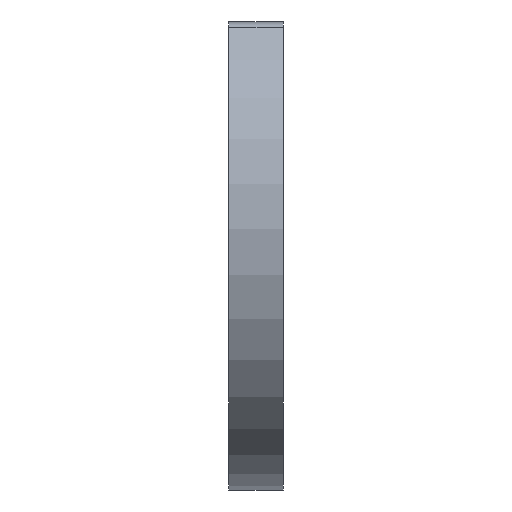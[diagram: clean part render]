
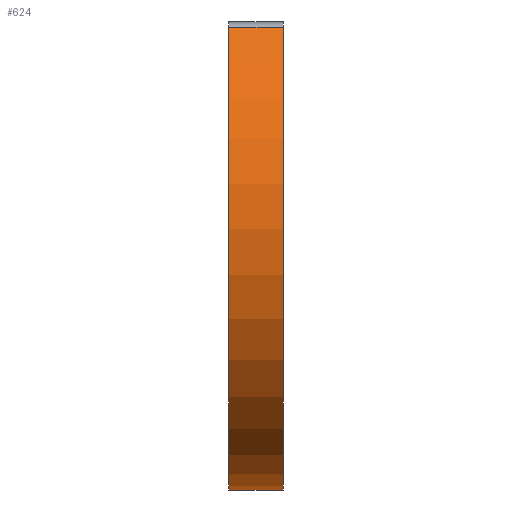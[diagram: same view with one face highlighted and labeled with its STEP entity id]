
A CAD part, left-side view. The second image highlights one B-rep face of the part: STEP entity #624.
In plain terms, the highlighted cylindrical face has radius 2.4 mm (diameter 4.8 mm), a partial arc.
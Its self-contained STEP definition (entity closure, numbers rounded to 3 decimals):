
#11 = VERTEX_POINT ( 'NONE', #43 ) ;
#12 = EDGE_CURVE ( 'NONE', #175, #704, #164, .T. ) ;
#43 = CARTESIAN_POINT ( 'NONE',  ( -1.571, -0.25, 1.815 ) ) ;
#46 = EDGE_CURVE ( 'NONE', #11, #491, #245, .T. ) ;
#88 = DIRECTION ( 'NONE',  ( 0., 0., 1. ) ) ;
#100 = CIRCLE ( 'NONE', #404, 2.4 ) ;
#117 = ORIENTED_EDGE ( 'NONE', *, *, #788, .F. ) ;
#164 = LINE ( 'NONE', #837, #906 ) ;
#175 = VERTEX_POINT ( 'NONE', #577 ) ;
#180 = CARTESIAN_POINT ( 'NONE',  ( -1.571, 0.25, 1.815 ) ) ;
#198 = EDGE_CURVE ( 'NONE', #704, #11, #351, .T. ) ;
#245 = LINE ( 'NONE', #328, #523 ) ;
#276 = CARTESIAN_POINT ( 'NONE',  ( 0., 0.25, 0. ) ) ;
#293 = CARTESIAN_POINT ( 'NONE',  ( 0., -0.25, 0. ) ) ;
#319 = ORIENTED_EDGE ( 'NONE', *, *, #46, .T. ) ;
#328 = CARTESIAN_POINT ( 'NONE',  ( -1.571, 0.25, 1.815 ) ) ;
#351 = CIRCLE ( 'NONE', #849, 2.4 ) ;
#369 = DIRECTION ( 'NONE',  ( 0., 0., 1. ) ) ;
#404 = AXIS2_PLACEMENT_3D ( 'NONE', #800, #521, #88 ) ;
#457 = DIRECTION ( 'NONE',  ( 0., 1., 0. ) ) ;
#491 = VERTEX_POINT ( 'NONE', #180 ) ;
#499 = DIRECTION ( 'NONE',  ( 0., -1., 0. ) ) ;
#521 = DIRECTION ( 'NONE',  ( 0., 1., 0. ) ) ;
#523 = VECTOR ( 'NONE', #457, 1000. ) ;
#577 = CARTESIAN_POINT ( 'NONE',  ( 0., 0.25, -2.4 ) ) ;
#585 = DIRECTION ( 'NONE',  ( 0., 1., 0. ) ) ;
#591 = FACE_OUTER_BOUND ( 'NONE', #669, .T. ) ;
#624 = ADVANCED_FACE ( 'NONE', ( #591 ), #833, .T. ) ;
#669 = EDGE_LOOP ( 'NONE', ( #117, #799, #847, #319 ) ) ;
#704 = VERTEX_POINT ( 'NONE', #758 ) ;
#717 = DIRECTION ( 'NONE',  ( 0., 0., -1. ) ) ;
#758 = CARTESIAN_POINT ( 'NONE',  ( 0., -0.25, -2.4 ) ) ;
#788 = EDGE_CURVE ( 'NONE', #175, #491, #100, .T. ) ;
#799 = ORIENTED_EDGE ( 'NONE', *, *, #12, .T. ) ;
#800 = CARTESIAN_POINT ( 'NONE',  ( 0., 0.25, 0. ) ) ;
#805 = AXIS2_PLACEMENT_3D ( 'NONE', #276, #499, #717 ) ;
#833 = CYLINDRICAL_SURFACE ( 'NONE', #805, 2.4 ) ;
#837 = CARTESIAN_POINT ( 'NONE',  ( 0., 0.25, -2.4 ) ) ;
#847 = ORIENTED_EDGE ( 'NONE', *, *, #198, .T. ) ;
#849 = AXIS2_PLACEMENT_3D ( 'NONE', #293, #585, #369 ) ;
#883 = DIRECTION ( 'NONE',  ( 0., -1., 0. ) ) ;
#906 = VECTOR ( 'NONE', #883, 1000. ) ;
